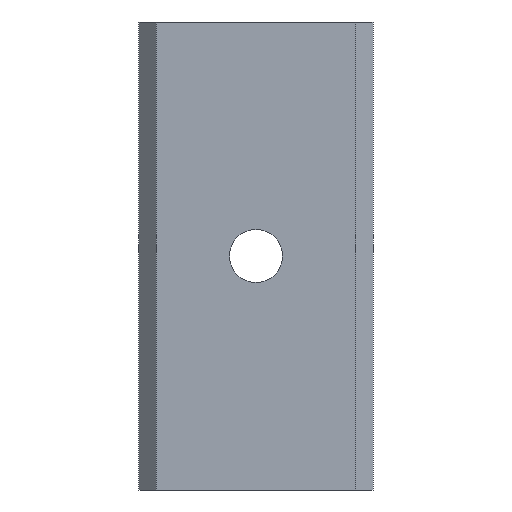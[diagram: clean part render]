
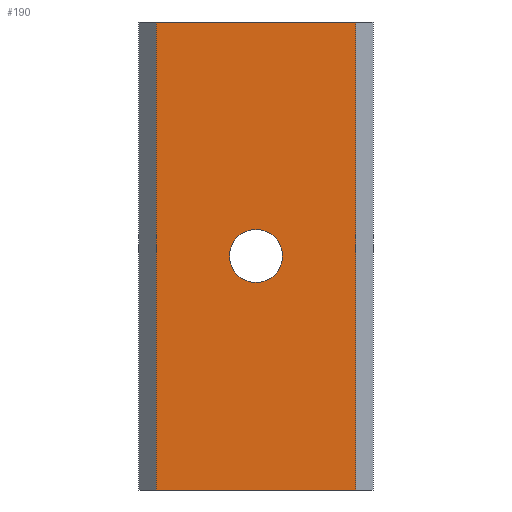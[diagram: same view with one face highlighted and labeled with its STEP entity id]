
A CAD part, left-side view. The second image highlights one B-rep face of the part: STEP entity #190.
In plain terms, the highlighted planar face has unit normal (-1, 0, 0).
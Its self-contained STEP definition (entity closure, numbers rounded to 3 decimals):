
#2 = VECTOR ( 'NONE', #160, 1000. ) ;
#5 = ORIENTED_EDGE ( 'NONE', *, *, #832, .F. ) ;
#18 = CARTESIAN_POINT ( 'NONE',  ( -11.5, 0., 30. ) ) ;
#22 = DIRECTION ( 'NONE',  ( 1., 0., 0. ) ) ;
#36 = ORIENTED_EDGE ( 'NONE', *, *, #430, .T. ) ;
#41 = DIRECTION ( 'NONE',  ( 0., 0., -1. ) ) ;
#45 = LINE ( 'NONE', #353, #547 ) ;
#52 = CARTESIAN_POINT ( 'NONE',  ( -11.5, 12.8, 0. ) ) ;
#65 = EDGE_LOOP ( 'NONE', ( #103, #284, #5, #36 ) ) ;
#70 = CARTESIAN_POINT ( 'NONE',  ( -11.5, 12.8, 60. ) ) ;
#101 = CIRCLE ( 'NONE', #460, 3.4 ) ;
#103 = ORIENTED_EDGE ( 'NONE', *, *, #340, .T. ) ;
#112 = DIRECTION ( 'NONE',  ( 0., 0., -1. ) ) ;
#138 = VECTOR ( 'NONE', #564, 1000. ) ;
#140 = CARTESIAN_POINT ( 'NONE',  ( -11.5, -12.8, 0. ) ) ;
#160 = DIRECTION ( 'NONE',  ( 0., 0., -1. ) ) ;
#163 = VERTEX_POINT ( 'NONE', #140 ) ;
#171 = CARTESIAN_POINT ( 'NONE',  ( -11.5, 12.8, 60. ) ) ;
#190 = ADVANCED_FACE ( 'NONE', ( #438, #328 ), #401, .F. ) ;
#206 = DIRECTION ( 'NONE',  ( 1., 0., 0. ) ) ;
#207 = CIRCLE ( 'NONE', #313, 3.4 ) ;
#213 = LINE ( 'NONE', #333, #2 ) ;
#215 = EDGE_LOOP ( 'NONE', ( #501, #689 ) ) ;
#217 = CARTESIAN_POINT ( 'NONE',  ( -11.5, 12.8, 60. ) ) ;
#242 = CARTESIAN_POINT ( 'NONE',  ( -11.5, 0., 26.6 ) ) ;
#253 = VERTEX_POINT ( 'NONE', #802 ) ;
#284 = ORIENTED_EDGE ( 'NONE', *, *, #749, .F. ) ;
#313 = AXIS2_PLACEMENT_3D ( 'NONE', #502, #426, #112 ) ;
#328 = FACE_OUTER_BOUND ( 'NONE', #65, .T. ) ;
#333 = CARTESIAN_POINT ( 'NONE',  ( -11.5, -12.8, 60. ) ) ;
#340 = EDGE_CURVE ( 'NONE', #467, #163, #441, .T. ) ;
#353 = CARTESIAN_POINT ( 'NONE',  ( -11.5, 12.8, 60. ) ) ;
#391 = EDGE_CURVE ( 'NONE', #517, #580, #207, .T. ) ;
#401 = PLANE ( 'NONE',  #696 ) ;
#419 = DIRECTION ( 'NONE',  ( 0., -1., 0. ) ) ;
#426 = DIRECTION ( 'NONE',  ( 1., 0., 0. ) ) ;
#430 = EDGE_CURVE ( 'NONE', #828, #467, #770, .T. ) ;
#438 = FACE_BOUND ( 'NONE', #215, .T. ) ;
#441 = LINE ( 'NONE', #556, #138 ) ;
#460 = AXIS2_PLACEMENT_3D ( 'NONE', #18, #22, #550 ) ;
#467 = VERTEX_POINT ( 'NONE', #52 ) ;
#501 = ORIENTED_EDGE ( 'NONE', *, *, #391, .T. ) ;
#502 = CARTESIAN_POINT ( 'NONE',  ( -11.5, 0., 30. ) ) ;
#517 = VERTEX_POINT ( 'NONE', #242 ) ;
#547 = VECTOR ( 'NONE', #419, 1000. ) ;
#550 = DIRECTION ( 'NONE',  ( 0., 0., -1. ) ) ;
#556 = CARTESIAN_POINT ( 'NONE',  ( -11.5, 12.8, 0. ) ) ;
#564 = DIRECTION ( 'NONE',  ( 0., -1., 0. ) ) ;
#580 = VERTEX_POINT ( 'NONE', #841 ) ;
#613 = VECTOR ( 'NONE', #41, 1000. ) ;
#660 = DIRECTION ( 'NONE',  ( 0., 1., 0. ) ) ;
#689 = ORIENTED_EDGE ( 'NONE', *, *, #732, .T. ) ;
#696 = AXIS2_PLACEMENT_3D ( 'NONE', #70, #206, #660 ) ;
#732 = EDGE_CURVE ( 'NONE', #580, #517, #101, .T. ) ;
#749 = EDGE_CURVE ( 'NONE', #253, #163, #213, .T. ) ;
#770 = LINE ( 'NONE', #171, #613 ) ;
#802 = CARTESIAN_POINT ( 'NONE',  ( -11.5, -12.8, 60. ) ) ;
#828 = VERTEX_POINT ( 'NONE', #217 ) ;
#832 = EDGE_CURVE ( 'NONE', #828, #253, #45, .T. ) ;
#841 = CARTESIAN_POINT ( 'NONE',  ( -11.5, 0., 33.4 ) ) ;
